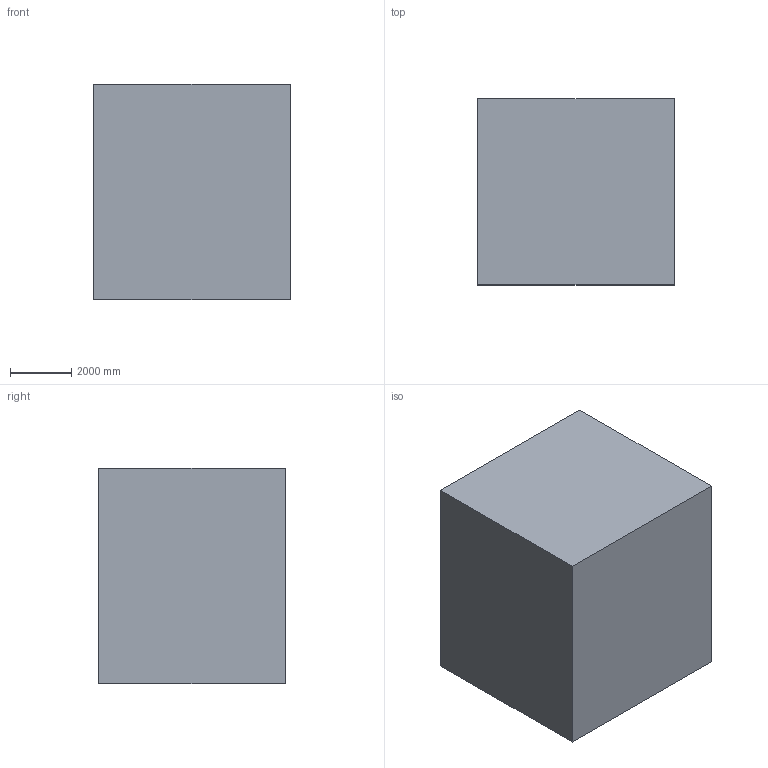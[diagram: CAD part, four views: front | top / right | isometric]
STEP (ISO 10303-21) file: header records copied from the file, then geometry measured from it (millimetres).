
FILE_DESCRIPTION(/* description */ (''),/* implementation_level */ '2;1');
FILE_NAME(/* name */ 'Setup2Test.step',/* time_stamp */ '2024-09-30T15:57:45-07:00',/* author */ (''),/* organization */ (''),/* preprocessor_version */ 'ST-DEVELOPER v20',/* originating_system */ 'Autodesk Translation Framework v13.20.0.188',/* authorisation */ '');
FILE_SCHEMA (('AUTOMOTIVE_DESIGN { 1 0 10303 214 3 1 1 }'));
Products named in the file (28): CFDFullTopDifferentialGrate; CFDBracket; BracketCFD v2; BracketCFD v2 (1); BracketCFD v2_1; Component25; Component26; BracketCFD v2 (1)_1; Component28; Component29; SimplifiedWeldTop v4; FanModel v1; InnerFan; AlBody; FanModel v1 (1); InnerFan (1); FanModel v1 (2); InnerFan (2); FanModel v1 (3); InnerFan (3); BottomHolderCFDGrated; FanModel v3; FanModel v3_1; FanModel v3_2; FanModel v3_3; InnerFan_1; Component23; Differential9524m2 v2
Assembly tree (34 placements, depth 4):
  CFDFullTopDifferentialGrate
    CFDBracket
    BracketCFD v2
      Component25
      Component26
    BracketCFD v2 (1)
      Component28
      Component29
    BracketCFD v2_1
      Component25
      Component26
    BracketCFD v2 (1)_1
      Component28
      Component29
    SimplifiedWeldTop v4
      FanModel v1
        InnerFan
      AlBody
      FanModel v1 (1)
        InnerFan (1)
      FanModel v1 (2)
        InnerFan (2)
      FanModel v1 (3)
        InnerFan (3)
    BottomHolderCFDGrated
      FanModel v3
        InnerFan_1
      FanModel v3_1
        InnerFan_1
      FanModel v3_2
        InnerFan_1
      FanModel v3_3
        InnerFan_1
      Component23
    Differential9524m2 v2
Bounding box: 6400 x 6060 x 7000 mm (x, y, z)
Volume: 271501159358.4 mm3; surface area: 254474219.7 mm2
Topology: 32 solids, 32 shells, 2359 faces, 6957 edges, 4628 vertices
Faces by surface type: plane 2305, cylinder 54
Full cylindrical faces by diameter (mm): 30 x16, 77.3 x8, 77.5 x16
Entity records: 78968 total; most frequent: CARTESIAN_POINT 13840, ORIENTED_EDGE 13758, DIRECTION 11741, EDGE_CURVE 6879, LINE 6787, VECTOR 6787, VERTEX_POINT 4576, EDGE_LOOP 3375
